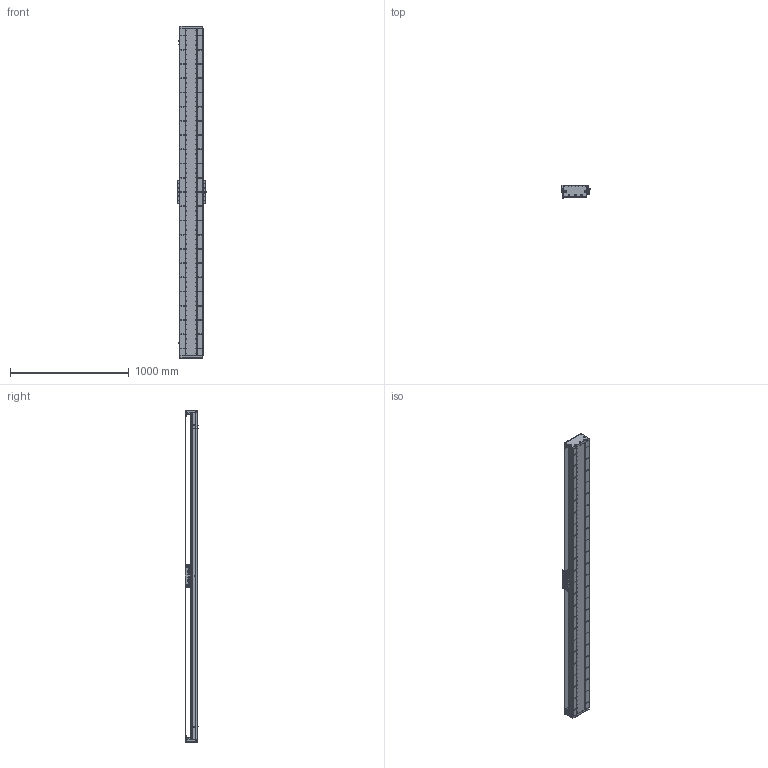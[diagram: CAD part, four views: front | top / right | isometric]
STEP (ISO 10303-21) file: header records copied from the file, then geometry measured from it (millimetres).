
FILE_DESCRIPTION (( 'STEP AP203' ), '1' );
FILE_NAME ('DA-C195-C2-T2520-C010-0.2 眻盄萇儂.STEP', '2025-08-15T01:13:47', ( '' ), ( '' ), 'SwSTEP 2.0', 'SolidWorks 2019', '' );
FILE_SCHEMA (( 'CONFIG_CONTROL_DESIGN' ));
Length unit declared in the file: millimetre
Products named in the file (15): IU-CU195-L-00 菁釱(L2760); DA-C195-GD-DB-H-00 傷啣; IU-CU195-L 菁釱絳寢; DA95-HXJ-00 遣喳砎蝶; DA195詩湍郪璃; DA-C195-C2-T2520-C010-0.2 眻盄萇儂; PM-T45ㄗ侂狟ㄘ; DA165-GYP-00 光电感应片(默认); DA195詩湍嶺輸; CU195-C2賑輸-俋楷; MS200 棠掑喜S315-T1740; 葩璃 DA95-GT-T-00; DA195詩湍菜輸; LMT黍杅芛; DA195詩湍裔啣
Assembly tree (29 placements, depth 3):
  DA-C195-C2-T2520-C010-0.2 眻盄萇儂
    DA195詩湍郪璃
      DA195詩湍菜輸  x2
      DA195詩湍裔啣
      DA195詩湍嶺輸  x2
      DA95-HXJ-00 遣喳砎蝶  x8
      DA-C195-GD-DB-H-00 傷啣  x2
    IU-CU195-L 菁釱絳寢
      IU-CU195-L-00 菁釱(L2760)
      葩璃 DA95-GT-T-00  x4
    LMT黍杅芛
    MS200 棠掑喜S315-T1740
    PM-T45ㄗ侂狟ㄘ  x3
    DA165-GYP-00 光电感应片(默认)
    CU195-C2賑輸-俋楷
Bounding box: 248 x 115.45 x 2800 mm (x, y, z)
Volume: 15957026.7 mm3; surface area: 4730436 mm2
Topology: 66 solids, 130 shells, 4452 faces, 12499 edges, 7879 vertices
Faces by surface type: cylinder 2431, plane 1403, cone 530, torus 52, sphere 36
Entity records: 143823 total; most frequent: CARTESIAN_POINT 39398, ORIENTED_EDGE 21882, DIRECTION 20992, EDGE_CURVE 10941, AXIS2_PLACEMENT_3D 7893, VERTEX_POINT 7081, VECTOR 5206, LINE 5206
